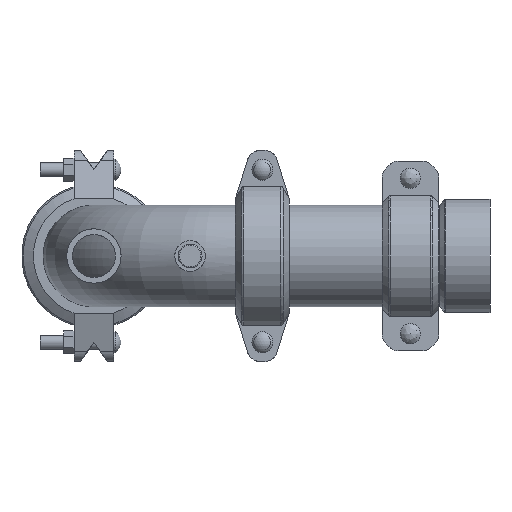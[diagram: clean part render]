
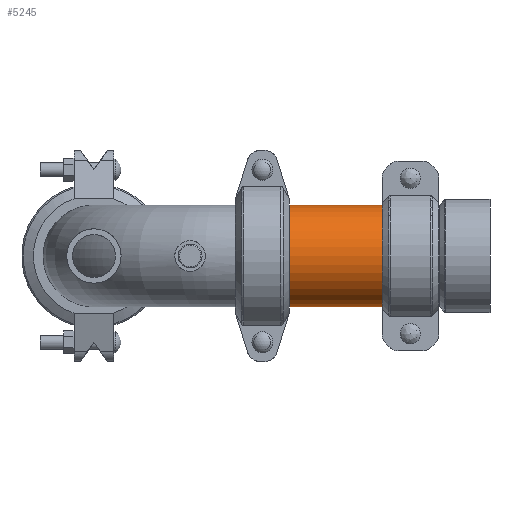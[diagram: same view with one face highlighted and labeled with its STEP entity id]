
A CAD part, front view. The second image highlights one B-rep face of the part: STEP entity #5245.
In plain terms, the highlighted cylindrical face has radius 57.15 mm (diameter 114.3 mm), a full revolution.
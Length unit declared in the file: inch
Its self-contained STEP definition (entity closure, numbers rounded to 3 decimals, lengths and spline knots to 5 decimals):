
#209=CYLINDRICAL_SURFACE('',#5825,2.25);
#621=LINE('',#8841,#955);
#955=VECTOR('',#6893,2.25);
#1266=FACE_OUTER_BOUND('',#1561,.T.);
#1561=EDGE_LOOP('',(#4004,#4005,#4006,#4007,#4008,#4009));
#1901=CIRCLE('',#5823,2.25);
#1902=CIRCLE('',#5824,2.25);
#1903=CIRCLE('',#5826,2.25);
#1904=CIRCLE('',#5827,2.25);
#2305=VERTEX_POINT('',#8832);
#2306=VERTEX_POINT('',#8833);
#2307=VERTEX_POINT('',#8837);
#2308=VERTEX_POINT('',#8838);
#2925=EDGE_CURVE('',#2305,#2306,#1901,.T.);
#2926=EDGE_CURVE('',#2306,#2305,#1902,.T.);
#2927=EDGE_CURVE('',#2307,#2308,#1903,.T.);
#2928=EDGE_CURVE('',#2308,#2307,#1904,.T.);
#2929=EDGE_CURVE('',#2308,#2306,#621,.T.);
#4004=ORIENTED_EDGE('',*,*,#2927,.F.);
#4005=ORIENTED_EDGE('',*,*,#2928,.F.);
#4006=ORIENTED_EDGE('',*,*,#2929,.T.);
#4007=ORIENTED_EDGE('',*,*,#2926,.T.);
#4008=ORIENTED_EDGE('',*,*,#2925,.T.);
#4009=ORIENTED_EDGE('',*,*,#2929,.F.);
#5245=ADVANCED_FACE('',(#1266),#209,.T.);
#5823=AXIS2_PLACEMENT_3D('',#8834,#6883,#6884);
#5824=AXIS2_PLACEMENT_3D('',#8835,#6885,#6886);
#5825=AXIS2_PLACEMENT_3D('',#8836,#6887,#6888);
#5826=AXIS2_PLACEMENT_3D('',#8839,#6889,#6890);
#5827=AXIS2_PLACEMENT_3D('',#8840,#6891,#6892);
#6883=DIRECTION('center_axis',(1.,0.,0.));
#6884=DIRECTION('ref_axis',(0.,0.,-1.));
#6885=DIRECTION('center_axis',(1.,0.,0.));
#6886=DIRECTION('ref_axis',(0.,0.,-1.));
#6887=DIRECTION('center_axis',(1.,0.,0.));
#6888=DIRECTION('ref_axis',(0.,1.,0.));
#6889=DIRECTION('center_axis',(1.,0.,0.));
#6890=DIRECTION('ref_axis',(0.,0.,-1.));
#6891=DIRECTION('center_axis',(1.,0.,0.));
#6892=DIRECTION('ref_axis',(0.,0.,-1.));
#6893=DIRECTION('',(-1.,0.,0.));
#8832=CARTESIAN_POINT('',(-2.0735,2.25,0.));
#8833=CARTESIAN_POINT('',(-2.0735,-2.25,0.));
#8834=CARTESIAN_POINT('Origin',(-2.0735,0.,0.));
#8835=CARTESIAN_POINT('Origin',(-2.0735,0.,0.));
#8836=CARTESIAN_POINT('Origin',(0.,0.,0.));
#8837=CARTESIAN_POINT('',(2.0735,2.25,0.));
#8838=CARTESIAN_POINT('',(2.0735,-2.25,0.));
#8839=CARTESIAN_POINT('Origin',(2.0735,0.,0.));
#8840=CARTESIAN_POINT('Origin',(2.0735,0.,0.));
#8841=CARTESIAN_POINT('',(0.,-2.25,0.));
